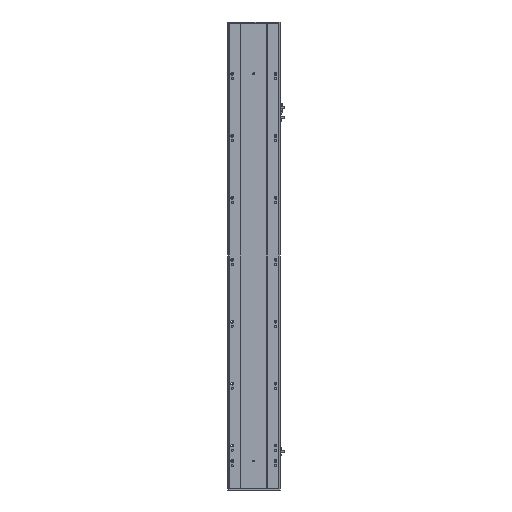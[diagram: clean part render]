
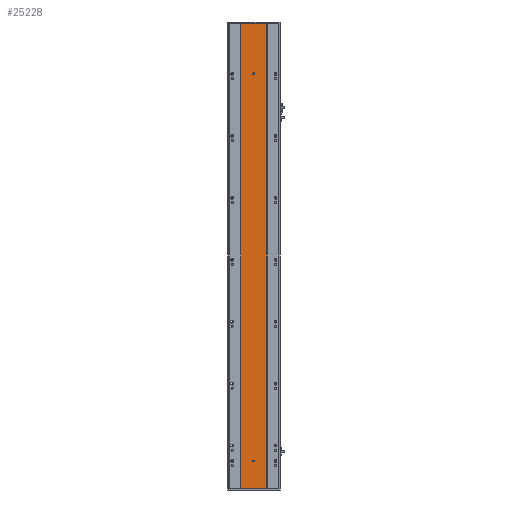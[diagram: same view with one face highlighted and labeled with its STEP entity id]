
A CAD part, front view. The second image highlights one B-rep face of the part: STEP entity #25228.
In plain terms, the highlighted planar face has unit normal (0, -1, 0).
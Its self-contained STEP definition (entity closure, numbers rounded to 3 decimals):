
#233 = EDGE_LOOP ( 'NONE', ( #21790, #25076 ) ) ;
#342 = AXIS2_PLACEMENT_3D ( 'NONE', #13812, #1504, #15883 ) ;
#370 = DIRECTION ( 'NONE',  ( 0., 1., 0. ) ) ;
#560 = DIRECTION ( 'NONE',  ( 0., 1., 0. ) ) ;
#1343 = ORIENTED_EDGE ( 'NONE', *, *, #2030, .F. ) ;
#1497 = VERTEX_POINT ( 'NONE', #12937 ) ;
#1504 = DIRECTION ( 'NONE',  ( 0., 1., 0. ) ) ;
#1631 = AXIS2_PLACEMENT_3D ( 'NONE', #18876, #370, #18954 ) ;
#1817 = CARTESIAN_POINT ( 'NONE',  ( 126.916, 2.57, 1501. ) ) ;
#2030 = EDGE_CURVE ( 'NONE', #26434, #19686, #21891, .T. ) ;
#2576 = ORIENTED_EDGE ( 'NONE', *, *, #21856, .T. ) ;
#3704 = FACE_OUTER_BOUND ( 'NONE', #9899, .T. ) ;
#3954 = CARTESIAN_POINT ( 'NONE',  ( 85., 2.57, 1341.5 ) ) ;
#3975 = EDGE_CURVE ( 'NONE', #1497, #12117, #13264, .T. ) ;
#4347 = CARTESIAN_POINT ( 'NONE',  ( 42.916, 2.57, 0. ) ) ;
#4848 = ORIENTED_EDGE ( 'NONE', *, *, #3975, .T. ) ;
#5047 = CIRCLE ( 'NONE', #342, 3. ) ;
#5223 = VECTOR ( 'NONE', #26030, 1000. ) ;
#5335 = EDGE_CURVE ( 'NONE', #25024, #19686, #8062, .T. ) ;
#6565 = ORIENTED_EDGE ( 'NONE', *, *, #7799, .T. ) ;
#6947 = EDGE_LOOP ( 'NONE', ( #2576, #4848 ) ) ;
#7075 = AXIS2_PLACEMENT_3D ( 'NONE', #22209, #9853, #24281 ) ;
#7527 = CARTESIAN_POINT ( 'NONE',  ( 126.916, 2.57, 0. ) ) ;
#7582 = EDGE_CURVE ( 'NONE', #22463, #26434, #10375, .T. ) ;
#7799 = EDGE_CURVE ( 'NONE', #22463, #25024, #10678, .T. ) ;
#8062 = LINE ( 'NONE', #11711, #17744 ) ;
#9144 = FACE_BOUND ( 'NONE', #6947, .T. ) ;
#9845 = CARTESIAN_POINT ( 'NONE',  ( 85., 2.57, 88.5 ) ) ;
#9853 = DIRECTION ( 'NONE',  ( 0., 1., 0. ) ) ;
#9899 = EDGE_LOOP ( 'NONE', ( #21075, #1343, #18532, #6565 ) ) ;
#10058 = CARTESIAN_POINT ( 'NONE',  ( 42.916, 2.57, 1501. ) ) ;
#10375 = LINE ( 'NONE', #10842, #26139 ) ;
#10678 = LINE ( 'NONE', #7527, #5223 ) ;
#10842 = CARTESIAN_POINT ( 'NONE',  ( 42.916, 2.57, 0. ) ) ;
#11166 = CARTESIAN_POINT ( 'NONE',  ( 85., 2.57, 85.5 ) ) ;
#11711 = CARTESIAN_POINT ( 'NONE',  ( 42.916, 2.57, 1501. ) ) ;
#11960 = DIRECTION ( 'NONE',  ( 0., 0., 1. ) ) ;
#12117 = VERTEX_POINT ( 'NONE', #11166 ) ;
#12877 = CARTESIAN_POINT ( 'NONE',  ( 85., 2.57, 88.5 ) ) ;
#12937 = CARTESIAN_POINT ( 'NONE',  ( 85., 2.57, 91.5 ) ) ;
#13264 = CIRCLE ( 'NONE', #21696, 3. ) ;
#13812 = CARTESIAN_POINT ( 'NONE',  ( 85., 2.57, 1338.5 ) ) ;
#13993 = CARTESIAN_POINT ( 'NONE',  ( 126.916, 2.57, 0. ) ) ;
#14822 = PLANE ( 'NONE',  #1631 ) ;
#14931 = DIRECTION ( 'NONE',  ( 0., 0., 1. ) ) ;
#14995 = DIRECTION ( 'NONE',  ( -1., 0., 0. ) ) ;
#15883 = DIRECTION ( 'NONE',  ( 0., 0., 1. ) ) ;
#16410 = VECTOR ( 'NONE', #24935, 1000. ) ;
#17087 = EDGE_CURVE ( 'NONE', #22748, #21929, #5047, .T. ) ;
#17506 = CARTESIAN_POINT ( 'NONE',  ( 85., 2.57, 1335.5 ) ) ;
#17592 = AXIS2_PLACEMENT_3D ( 'NONE', #9845, #24273, #11960 ) ;
#17744 = VECTOR ( 'NONE', #26073, 1000. ) ;
#18532 = ORIENTED_EDGE ( 'NONE', *, *, #7582, .F. ) ;
#18876 = CARTESIAN_POINT ( 'NONE',  ( 42.916, 2.57, 0. ) ) ;
#18954 = DIRECTION ( 'NONE',  ( 0., 0., 1. ) ) ;
#19350 = CIRCLE ( 'NONE', #17592, 3. ) ;
#19686 = VERTEX_POINT ( 'NONE', #10058 ) ;
#21075 = ORIENTED_EDGE ( 'NONE', *, *, #5335, .T. ) ;
#21696 = AXIS2_PLACEMENT_3D ( 'NONE', #12877, #560, #14931 ) ;
#21790 = ORIENTED_EDGE ( 'NONE', *, *, #17087, .T. ) ;
#21856 = EDGE_CURVE ( 'NONE', #12117, #1497, #19350, .T. ) ;
#21891 = LINE ( 'NONE', #4347, #16410 ) ;
#21929 = VERTEX_POINT ( 'NONE', #3954 ) ;
#22209 = CARTESIAN_POINT ( 'NONE',  ( 85., 2.57, 1338.5 ) ) ;
#22463 = VERTEX_POINT ( 'NONE', #13993 ) ;
#22748 = VERTEX_POINT ( 'NONE', #17506 ) ;
#22873 = CARTESIAN_POINT ( 'NONE',  ( 42.916, 2.57, 0. ) ) ;
#23470 = EDGE_CURVE ( 'NONE', #21929, #22748, #26621, .T. ) ;
#24273 = DIRECTION ( 'NONE',  ( 0., 1., 0. ) ) ;
#24281 = DIRECTION ( 'NONE',  ( 0., 0., 1. ) ) ;
#24930 = FACE_BOUND ( 'NONE', #233, .T. ) ;
#24935 = DIRECTION ( 'NONE',  ( 0., 0., 1. ) ) ;
#25024 = VERTEX_POINT ( 'NONE', #1817 ) ;
#25076 = ORIENTED_EDGE ( 'NONE', *, *, #23470, .T. ) ;
#25228 = ADVANCED_FACE ( 'NONE', ( #9144, #24930, #3704 ), #14822, .F. ) ;
#26030 = DIRECTION ( 'NONE',  ( 0., 0., 1. ) ) ;
#26073 = DIRECTION ( 'NONE',  ( -1., 0., 0. ) ) ;
#26139 = VECTOR ( 'NONE', #14995, 1000. ) ;
#26434 = VERTEX_POINT ( 'NONE', #22873 ) ;
#26621 = CIRCLE ( 'NONE', #7075, 3. ) ;
